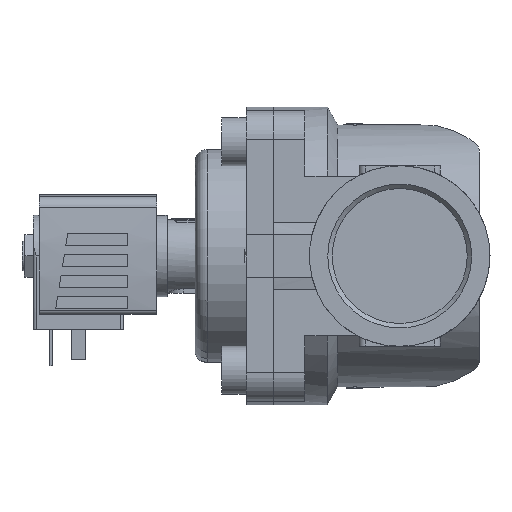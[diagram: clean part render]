
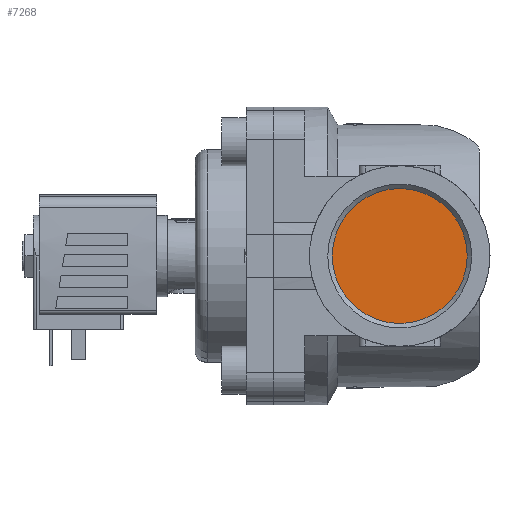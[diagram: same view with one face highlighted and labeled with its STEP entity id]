
A CAD part, left-side view. The second image highlights one B-rep face of the part: STEP entity #7268.
In plain terms, the highlighted planar face has unit normal (-1, 0, 0).
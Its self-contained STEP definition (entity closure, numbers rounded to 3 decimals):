
#2564=ORIENTED_EDGE('',*,*,#3737,.F.);
#3737=EDGE_CURVE('',#4424,#4424,#4758,.T.);
#4424=VERTEX_POINT('',#11256);
#4758=CIRCLE('',#7820,22.423);
#5068=EDGE_LOOP('',(#2564));
#5463=FACE_BOUND('',#5068,.T.);
#5748=PLANE('',#7821);
#7268=ADVANCED_FACE('',(#5463),#5748,.T.);
#7820=AXIS2_PLACEMENT_3D('',#11255,#9200,#9201);
#7821=AXIS2_PLACEMENT_3D('',#11257,#9202,#9203);
#9200=DIRECTION('',(1.,0.,0.));
#9201=DIRECTION('',(0.,0.,-1.));
#9202=DIRECTION('',(-1.,0.,0.));
#9203=DIRECTION('',(0.,0.,1.));
#11255=CARTESIAN_POINT('',(-36.,0.,0.));
#11256=CARTESIAN_POINT('',(-36.,0.,-22.423));
#11257=CARTESIAN_POINT('',(-36.,22.423,0.));
